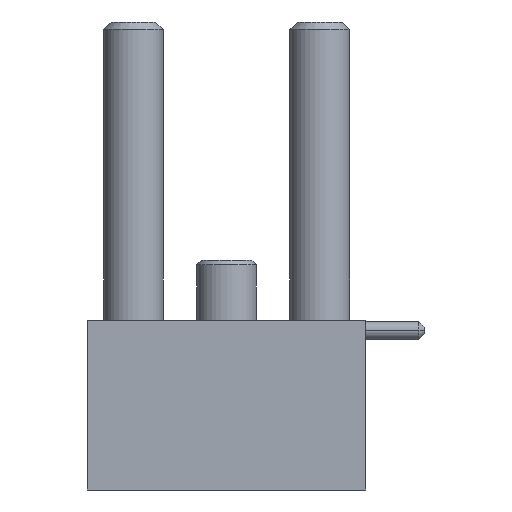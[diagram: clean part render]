
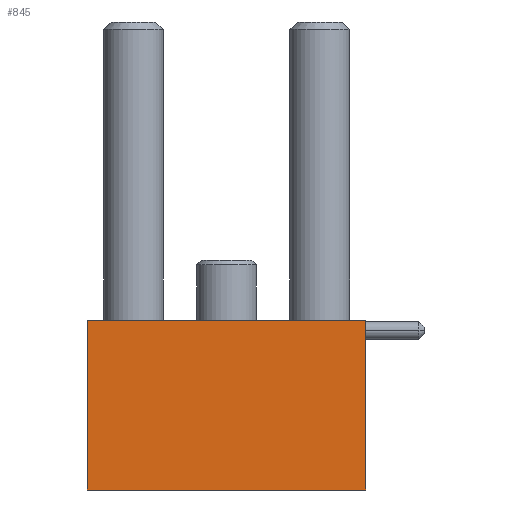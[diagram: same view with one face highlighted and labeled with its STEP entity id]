
A CAD part, front view. The second image highlights one B-rep face of the part: STEP entity #845.
In plain terms, the highlighted planar face has unit normal (0, -1, 0).
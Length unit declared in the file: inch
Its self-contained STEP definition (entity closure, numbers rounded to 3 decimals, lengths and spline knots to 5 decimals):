
#745 = VERTEX_POINT ( 'NONE', #1805 ) ;
#800 = VERTEX_POINT ( 'NONE', #4574 ) ;
#845 = ADVANCED_FACE ( 'NONE', ( #4582 ), #1167, .F. ) ;
#877 = CARTESIAN_POINT ( 'NONE',  ( 0., 0., 0. ) ) ;
#954 = VERTEX_POINT ( 'NONE', #877 ) ;
#1041 = VECTOR ( 'NONE', #1244, 39.37008 ) ;
#1134 = EDGE_CURVE ( 'NONE', #1232, #745, #4302, .T. ) ;
#1167 = PLANE ( 'NONE',  #1777 ) ;
#1232 = VERTEX_POINT ( 'NONE', #3732 ) ;
#1244 = DIRECTION ( 'NONE',  ( -1., 0., 0. ) ) ;
#1335 = EDGE_CURVE ( 'NONE', #1232, #800, #3968, .T. ) ;
#1411 = LINE ( 'NONE', #1573, #1041 ) ;
#1469 = ORIENTED_EDGE ( 'NONE', *, *, #1335, .T. ) ;
#1525 = EDGE_CURVE ( 'NONE', #954, #800, #3495, .T. ) ;
#1573 = CARTESIAN_POINT ( 'NONE',  ( 0., 0., 0. ) ) ;
#1605 = ORIENTED_EDGE ( 'NONE', *, *, #1134, .F. ) ;
#1643 = EDGE_CURVE ( 'NONE', #745, #954, #1411, .T. ) ;
#1777 = AXIS2_PLACEMENT_3D ( 'NONE', #3836, #1934, #4602 ) ;
#1805 = CARTESIAN_POINT ( 'NONE',  ( 0.187, 0., 0. ) ) ;
#1934 = DIRECTION ( 'NONE',  ( 0., 1., 0. ) ) ;
#2135 = EDGE_LOOP ( 'NONE', ( #1605, #1469, #3720, #2193 ) ) ;
#2142 = CARTESIAN_POINT ( 'NONE',  ( 0.187, 0., 0.114 ) ) ;
#2193 = ORIENTED_EDGE ( 'NONE', *, *, #1643, .F. ) ;
#3169 = VECTOR ( 'NONE', #4942, 39.37008 ) ;
#3348 = VECTOR ( 'NONE', #3664, 39.37008 ) ;
#3495 = LINE ( 'NONE', #3736, #4744 ) ;
#3532 = DIRECTION ( 'NONE',  ( 0., 0., 1. ) ) ;
#3664 = DIRECTION ( 'NONE',  ( 0., 0., -1. ) ) ;
#3720 = ORIENTED_EDGE ( 'NONE', *, *, #1525, .F. ) ;
#3732 = CARTESIAN_POINT ( 'NONE',  ( 0.187, 0., 0.114 ) ) ;
#3736 = CARTESIAN_POINT ( 'NONE',  ( 0., 0., -0.79841 ) ) ;
#3836 = CARTESIAN_POINT ( 'NONE',  ( 0., 0., 0.114 ) ) ;
#3968 = LINE ( 'NONE', #4564, #3169 ) ;
#4302 = LINE ( 'NONE', #2142, #3348 ) ;
#4564 = CARTESIAN_POINT ( 'NONE',  ( 0., 0., 0.114 ) ) ;
#4574 = CARTESIAN_POINT ( 'NONE',  ( 0., 0., 0.114 ) ) ;
#4582 = FACE_OUTER_BOUND ( 'NONE', #2135, .T. ) ;
#4602 = DIRECTION ( 'NONE',  ( 0., 0., 1. ) ) ;
#4744 = VECTOR ( 'NONE', #3532, 39.37008 ) ;
#4942 = DIRECTION ( 'NONE',  ( -1., 0., 0. ) ) ;
